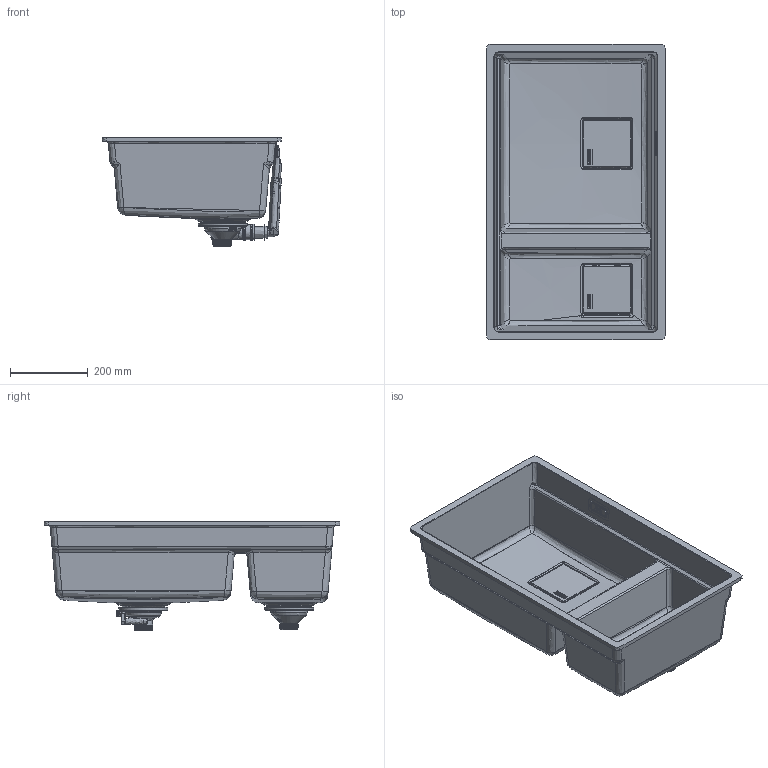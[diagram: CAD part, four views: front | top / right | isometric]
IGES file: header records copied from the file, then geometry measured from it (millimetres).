
Global section: file name: F:\_CONVERSIONE_CAD_2024_2025\_2024_GLB\Novelties_2024\Sinks\KUBUS-2\Caricati\125.0712.222 3D001_Sinks_Kubus-2_KNG-120-46-21\3D001_Sinks_Kubus-2_KNG-120-46-21.igs; native system: Rhinoceros ( Jul 12 2024 ); preprocessor: Trout Lake IGES 012 Jul 12 2024; date: 241118.090244; units: millimetre
Bounding box: 461.09 x 760 x 280 mm (x, y, z)
Surface area: 1805450.1 mm2 (no closed solid volume)
Topology: 0 solids, 0 shells, 3701 faces, 23627 edges, 23548 vertices
Faces by surface type: bspline 3701
